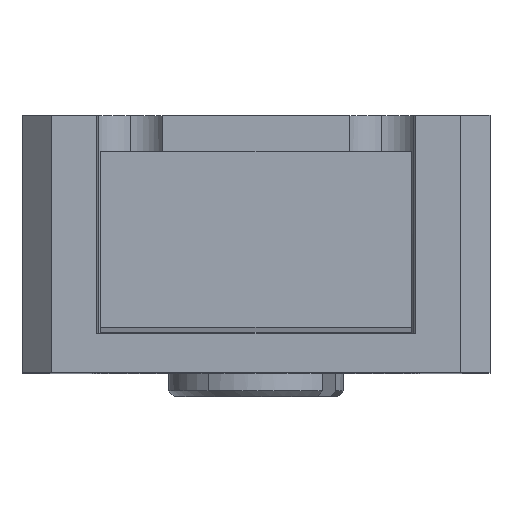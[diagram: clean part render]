
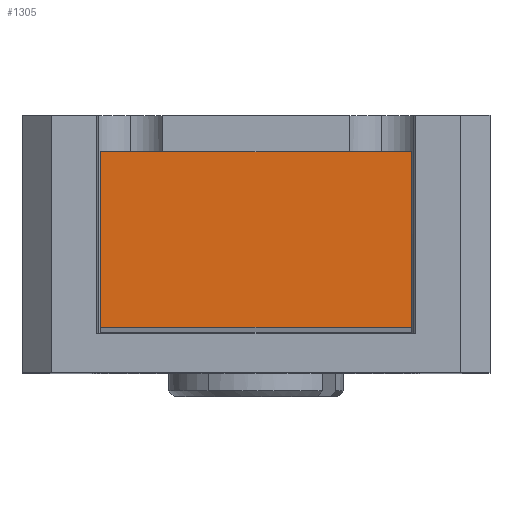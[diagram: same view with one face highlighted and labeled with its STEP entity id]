
A CAD part, top view. The second image highlights one B-rep face of the part: STEP entity #1305.
In plain terms, the highlighted planar face has unit normal (0, 0, 1).
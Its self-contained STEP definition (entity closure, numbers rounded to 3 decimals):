
#42 = DIRECTION ( 'NONE',  ( 1., 0., 0. ) ) ;
#137 = VECTOR ( 'NONE', #412, 1000. ) ;
#166 = EDGE_CURVE ( 'NONE', #1233, #900, #1840, .T. ) ;
#178 = VERTEX_POINT ( 'NONE', #1300 ) ;
#209 = ORIENTED_EDGE ( 'NONE', *, *, #1016, .T. ) ;
#278 = VERTEX_POINT ( 'NONE', #1183 ) ;
#375 = VECTOR ( 'NONE', #1851, 1000. ) ;
#412 = DIRECTION ( 'NONE',  ( 0., 1., 0. ) ) ;
#436 = EDGE_CURVE ( 'NONE', #178, #1233, #1903, .T. ) ;
#551 = CARTESIAN_POINT ( 'NONE',  ( 6.876, 22.2, 48.78 ) ) ;
#656 = DIRECTION ( 'NONE',  ( 1., 0., 0. ) ) ;
#669 = LINE ( 'NONE', #551, #137 ) ;
#671 = CARTESIAN_POINT ( 'NONE',  ( 6.876, 19.2, 48.78 ) ) ;
#714 = CARTESIAN_POINT ( 'NONE',  ( 6.876, 22.2, 48.78 ) ) ;
#900 = VERTEX_POINT ( 'NONE', #671 ) ;
#951 = DIRECTION ( 'NONE',  ( 0., 0., 1. ) ) ;
#1016 = EDGE_CURVE ( 'NONE', #278, #178, #1679, .T. ) ;
#1049 = AXIS2_PLACEMENT_3D ( 'NONE', #1434, #951, #656 ) ;
#1183 = CARTESIAN_POINT ( 'NONE',  ( 6.876, 22.2, 48.78 ) ) ;
#1226 = EDGE_LOOP ( 'NONE', ( #1533, #209, #1708, #1780 ) ) ;
#1233 = VERTEX_POINT ( 'NONE', #1620 ) ;
#1300 = CARTESIAN_POINT ( 'NONE',  ( 1.576, 22.2, 48.78 ) ) ;
#1305 = ADVANCED_FACE ( 'NONE', ( #2003 ), #1454, .T. ) ;
#1434 = CARTESIAN_POINT ( 'NONE',  ( 6.876, 19.2, 48.78 ) ) ;
#1454 = PLANE ( 'NONE',  #1049 ) ;
#1533 = ORIENTED_EDGE ( 'NONE', *, *, #1541, .T. ) ;
#1541 = EDGE_CURVE ( 'NONE', #900, #278, #669, .T. ) ;
#1572 = VECTOR ( 'NONE', #42, 1000. ) ;
#1620 = CARTESIAN_POINT ( 'NONE',  ( 1.576, 19.2, 48.78 ) ) ;
#1679 = LINE ( 'NONE', #714, #1952 ) ;
#1708 = ORIENTED_EDGE ( 'NONE', *, *, #436, .T. ) ;
#1780 = ORIENTED_EDGE ( 'NONE', *, *, #166, .T. ) ;
#1837 = DIRECTION ( 'NONE',  ( -1., 0., 0. ) ) ;
#1840 = LINE ( 'NONE', #1938, #1572 ) ;
#1851 = DIRECTION ( 'NONE',  ( 0., -1., 0. ) ) ;
#1903 = LINE ( 'NONE', #2004, #375 ) ;
#1938 = CARTESIAN_POINT ( 'NONE',  ( 1.576, 19.2, 48.78 ) ) ;
#1952 = VECTOR ( 'NONE', #1837, 1000. ) ;
#2003 = FACE_OUTER_BOUND ( 'NONE', #1226, .T. ) ;
#2004 = CARTESIAN_POINT ( 'NONE',  ( 1.576, 22.2, 48.78 ) ) ;
